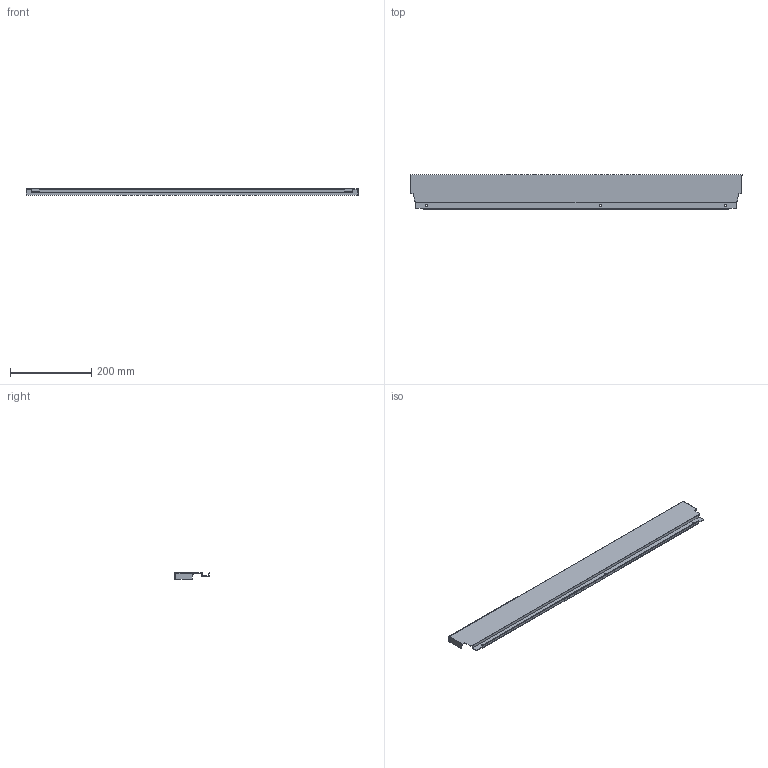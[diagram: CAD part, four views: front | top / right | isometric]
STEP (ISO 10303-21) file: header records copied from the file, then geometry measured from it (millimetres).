
FILE_DESCRIPTION (( 'STEP AP214' ), '1' );
FILE_NAME ('_DWD_XP Stahlrückwand_H86_KAB900_S16.step', '2010-07-08T12:10:00', ( 'grass' ), ( '' ), 'SwSTEP 2.0', 'SolidWorks 2010', '' );
FILE_SCHEMA (( 'AUTOMOTIVE_DESIGN' ));
Length unit declared in the file: millimetre
Products named in the file (1): _DWD_XP Stahlrückwand_H86_KAB900_S16
Bounding box: 819 x 85.79 x 16 mm (x, y, z)
Volume: 87771.4 mm3; surface area: 190533.6 mm2
Topology: 1 solids, 1 shells, 50 faces, 144 edges, 96 vertices
Faces by surface type: plane 44, cylinder 6
Entity records: 1666 total; most frequent: CARTESIAN_POINT 291, ORIENTED_EDGE 288, DIRECTION 258, EDGE_CURVE 144, LINE 132, VECTOR 132, VERTEX_POINT 96, AXIS2_PLACEMENT_3D 63
